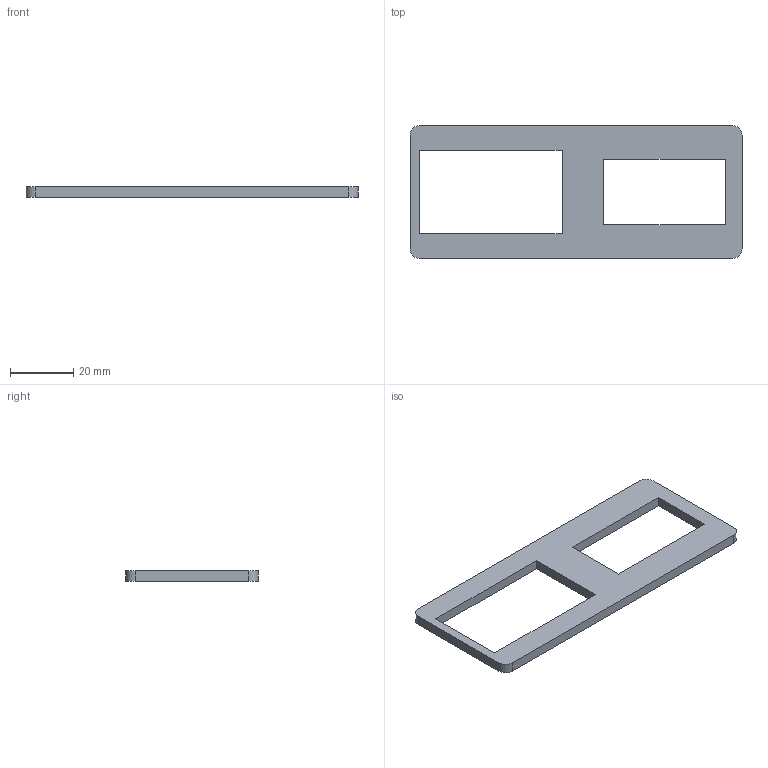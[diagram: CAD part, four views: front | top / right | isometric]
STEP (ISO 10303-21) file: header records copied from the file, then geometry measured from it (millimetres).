
FILE_DESCRIPTION(('Open CASCADE Model'),'2;1');
FILE_NAME('Open CASCADE Shape Model','2026-07-22T14:49:13',('Author'),( 'Open CASCADE'),'Open CASCADE STEP processor 7.9','Open CASCADE 7.9' ,'Unknown');
FILE_SCHEMA(('AUTOMOTIVE_DESIGN { 1 0 10303 214 1 1 1 1 }'));
Length unit declared in the file: millimetre
Products named in the file (1): Open CASCADE STEP translator 7.9 4
Bounding box: 105 x 42 x 3.2 mm (x, y, z)
Volume: 7710.6 mm3; surface area: 6581.1 mm2
Topology: 1 solids, 1 shells, 18 faces, 48 edges, 32 vertices
Faces by surface type: plane 14, cylinder 4
Entity records: 1198 total; most frequent: CARTESIAN_POINT 235, DIRECTION 170, LINE 112, VECTOR 112, ORIENTED_EDGE 96, PCURVE 96, DEFINITIONAL_REPRESENTATION 96, EDGE_CURVE 48
